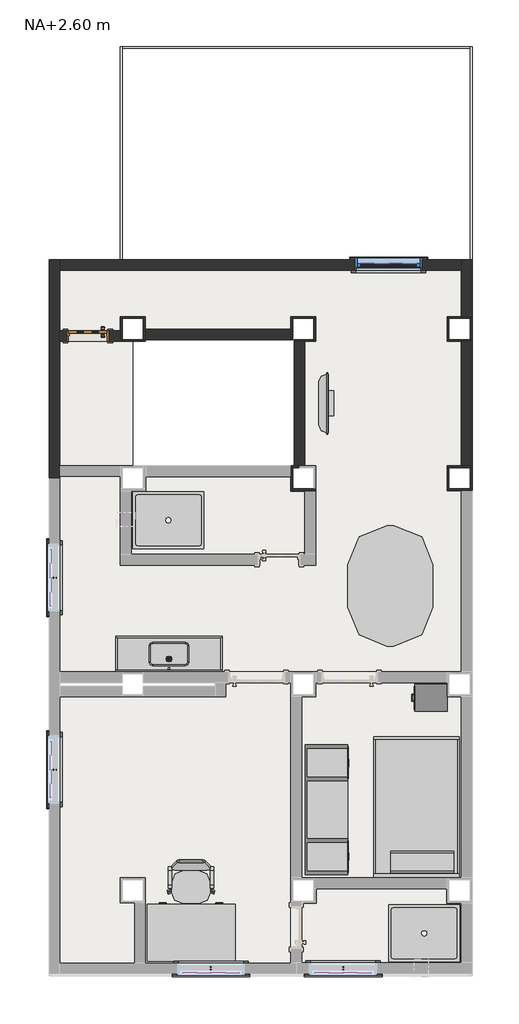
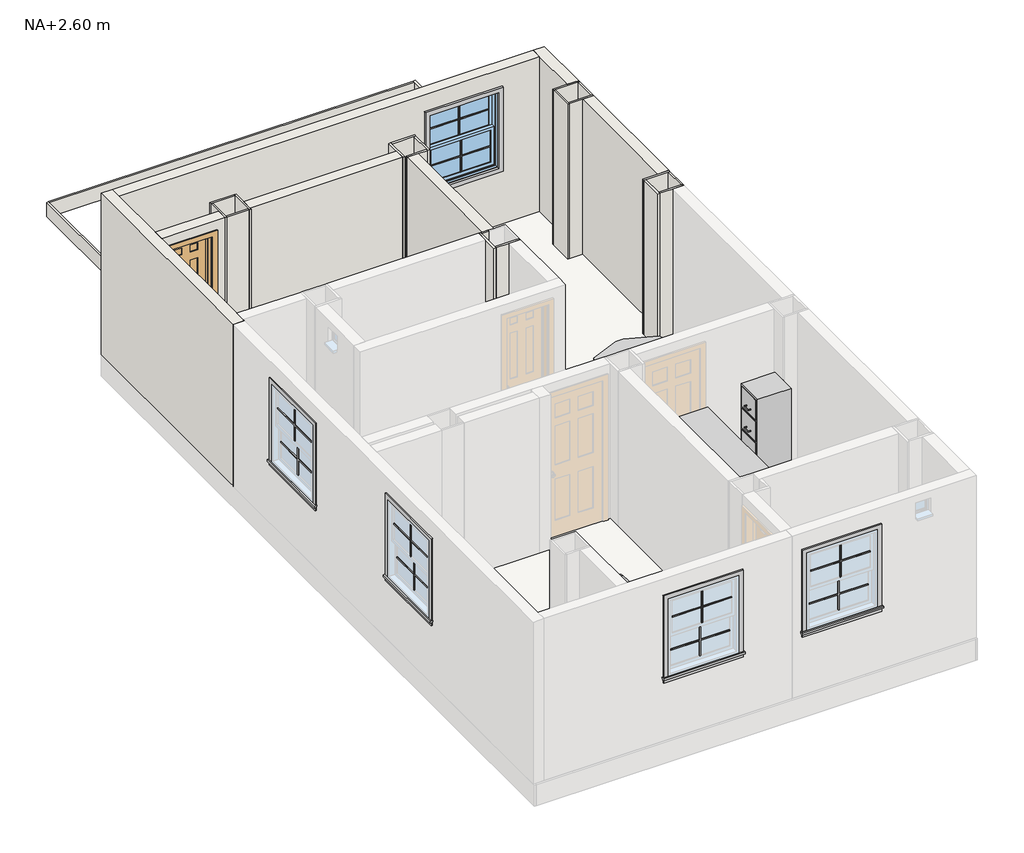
# One storey, part 2 of 2: 30 walls, 20 proxies, 8 furniture elements, 3 flow terminals, 3 slabs, 1 door, 1 window.
"""IFC4 building model written with IfcOpenShell, lengths in millimetres."""

from ifc_helpers import new_model, si_unit, frame, origin, place, context, project, spatial, polyline, outline, extrude, faceted_brep, transform, mapped, element, save
from components import generic_models_dbf21484, generic_models_88e86241, m_moldura_ventana_exterior_plana_con_antepecho_fe713c81, m_puerta_interior_simple_6_paneles_madera_550_x_2000mm_48b77f4a, flow_terminal_f6a3c244, flow_terminal_1000_x_800_mm_dd5a154a, furniture_a6d00652, furniture_18eae17e, furniture_0380_x_0457mm_9d2b133e, furniture_0810mm_51289c3c, furniture_1200_x_1700_mm_cef05c01, furniture_1830_x_1830_x_0610mm_7520c3c2, cama_shaker_1200_x_1981_mm_doble_06cf3c13, m_escritorio_1200_x_762mm_441a5315, m_ventana_dos_hojas_500_x_800mm_5dca547a

model = new_model("IFC4")

# Units and contexts
model_context = context("Model", 3, world=origin())
ifc_project = project(units=[si_unit("LENGTHUNIT", "METRE", prefix="MILLI")], contexts=[model_context])

# Site, building, storey
site = spatial("IfcSite", under=ifc_project)
building = spatial("IfcBuilding", under=site)
storey = spatial("IfcBuildingStorey", under=building, Name="NA+2.60 m", Elevation=2600.0)

# Proxies
placement = place(None, origin())
generic_models_shape = generic_models_dbf21484(model_context)
element("IfcBuildingElementProxy", 1, Name="M_Patrón de montante secundario_2x2 : M_Patrón de montante secundario_2x2", ObjectType="M_Patrón de montante secundario_2x2 : M_Patrón de montante secundario_2x2", at=placement, inside=storey, context=model_context, shape_type="MappedRepresentation", body=[
    mapped(generic_models_shape, transform((-2037.7561082, -5287.1867862, 4086.625), x_axis=(0.0, 1.0, 0.0), y_axis=(-1.0, 0.0, 0.0), z_axis=(0.0, 0.0, 1.0))),
])
element("IfcBuildingElementProxy", 2, Name="M_Patrón de montante secundario_2x2 : M_Patrón de montante secundario_2x2", ObjectType="M_Patrón de montante secundario_2x2 : M_Patrón de montante secundario_2x2", at=placement, inside=storey, context=model_context, shape_type="MappedRepresentation", body=[
    mapped(generic_models_shape, transform((-1993.3061082, -5287.1867862, 3590.6), x_axis=(0.0, 1.0, 0.0), y_axis=(-1.0, 0.0, 0.0), z_axis=(0.0, 0.0, 1.0))),
])
element("IfcBuildingElementProxy", 3, Name="M_Patrón de montante secundario_2x2 : M_Patrón de montante secundario_2x2", ObjectType="M_Patrón de montante secundario_2x2 : M_Patrón de montante secundario_2x2", at=placement, inside=storey, context=model_context, shape_type="MappedRepresentation", body=[
    mapped(generic_models_shape, transform((202.3188918, -8127.2617862, 4086.625), x_axis=(-1.0, 0.0, 0.0), y_axis=(0.0, -1.0, 0.0), z_axis=(0.0, 0.0, 1.0))),
])
element("IfcBuildingElementProxy", 4, Name="M_Patrón de montante secundario_2x2 : M_Patrón de montante secundario_2x2", ObjectType="M_Patrón de montante secundario_2x2 : M_Patrón de montante secundario_2x2", at=placement, inside=storey, context=model_context, shape_type="MappedRepresentation", body=[
    mapped(generic_models_shape, transform((202.3188918, -8082.8117862, 3590.6), x_axis=(-1.0, 0.0, 0.0), y_axis=(0.0, -1.0, 0.0), z_axis=(0.0, 0.0, 1.0))),
])
element("IfcBuildingElementProxy", 5, Name="M_Patrón de montante secundario_2x2 : M_Patrón de montante secundario_2x2", ObjectType="M_Patrón de montante secundario_2x2 : M_Patrón de montante secundario_2x2", at=placement, inside=storey, context=model_context, shape_type="MappedRepresentation", body=[
    mapped(generic_models_shape, transform((2062.3188918, -8127.2617862, 4086.625), x_axis=(-1.0, 0.0, 0.0), y_axis=(0.0, -1.0, 0.0), z_axis=(0.0, 0.0, 1.0))),
])
element("IfcBuildingElementProxy", 6, Name="M_Patrón de montante secundario_2x2 : M_Patrón de montante secundario_2x2", ObjectType="M_Patrón de montante secundario_2x2 : M_Patrón de montante secundario_2x2", at=placement, inside=storey, context=model_context, shape_type="MappedRepresentation", body=[
    mapped(generic_models_shape, transform((2062.3188918, -8082.8117862, 3590.6), x_axis=(-1.0, 0.0, 0.0), y_axis=(0.0, -1.0, 0.0), z_axis=(0.0, 0.0, 1.0))),
])
element("IfcBuildingElementProxy", 7, Name="M_Patrón de montante secundario_2x2 : M_Patrón de montante secundario_2x2", ObjectType="M_Patrón de montante secundario_2x2 : M_Patrón de montante secundario_2x2", at=placement, inside=storey, context=model_context, shape_type="MappedRepresentation", body=[
    mapped(generic_models_shape, transform((-2037.7561082, -2587.1867862, 4086.625), x_axis=(0.0, 1.0, 0.0), y_axis=(-1.0, 0.0, 0.0), z_axis=(0.0, 0.0, 1.0))),
])
element("IfcBuildingElementProxy", 8, Name="M_Patrón de montante secundario_2x2 : M_Patrón de montante secundario_2x2", ObjectType="M_Patrón de montante secundario_2x2 : M_Patrón de montante secundario_2x2", at=placement, inside=storey, context=model_context, shape_type="MappedRepresentation", body=[
    mapped(generic_models_shape, transform((-1993.3061082, -2587.1867862, 3590.6), x_axis=(0.0, 1.0, 0.0), y_axis=(-1.0, 0.0, 0.0), z_axis=(0.0, 0.0, 1.0))),
])
element("IfcBuildingElementProxy", 9, Name="M_Patrón de montante secundario_2x2 : M_Patrón de montante secundario_2x2", ObjectType="M_Patrón de montante secundario_2x2 : M_Patrón de montante secundario_2x2", at=placement, inside=storey, context=model_context, shape_type="MappedRepresentation", body=[
    mapped(generic_models_shape, transform((2702.3188918, 1852.8882138, 4086.625), x_axis=(1.0, 0.0, 0.0), y_axis=(0.0, 1.0, 0.0), z_axis=(0.0, 0.0, 1.0))),
])
element("IfcBuildingElementProxy", 10, Name="M_Patrón de montante secundario_2x2 : M_Patrón de montante secundario_2x2", ObjectType="M_Patrón de montante secundario_2x2 : M_Patrón de montante secundario_2x2", at=placement, inside=storey, context=model_context, shape_type="MappedRepresentation", body=[
    mapped(generic_models_shape, transform((2702.3188918, 1808.4382138, 3590.6), x_axis=(1.0, 0.0, 0.0), y_axis=(0.0, 1.0, 0.0), z_axis=(0.0, 0.0, 1.0))),
])
generic_models_2_shape = generic_models_88e86241(model_context)
element("IfcBuildingElementProxy", 11, Name="M_Cubrejuntas-Ventana-Interior-Plano : Marco de cuadro", ObjectType="M_Cubrejuntas-Ventana-Interior-Plano : Marco de cuadro", at=placement, inside=storey, context=model_context, shape_type="MappedRepresentation", body=[
    mapped(generic_models_2_shape, transform((-1922.6811082, -5287.1867862, 4614.4), x_axis=(0.0, 1.0, 0.0), y_axis=(0.0, 0.0, 1.0), z_axis=(1.0, 0.0, 0.0))),
])
element("IfcBuildingElementProxy", 12, Name="M_Cubrejuntas-Ventana-Interior-Plano : Marco de cuadro", ObjectType="M_Cubrejuntas-Ventana-Interior-Plano : Marco de cuadro", at=placement, inside=storey, context=model_context, shape_type="MappedRepresentation", body=[
    mapped(generic_models_2_shape, transform((202.3188918, -8012.1867862, 4614.4), x_axis=(-1.0, 0.0, 0.0), y_axis=(0.0, 0.0, 1.0), z_axis=(0.0, 1.0, 0.0))),
])
element("IfcBuildingElementProxy", 13, Name="M_Cubrejuntas-Ventana-Interior-Plano : Marco de cuadro", ObjectType="M_Cubrejuntas-Ventana-Interior-Plano : Marco de cuadro", at=placement, inside=storey, context=model_context, shape_type="MappedRepresentation", body=[
    mapped(generic_models_2_shape, transform((2062.3188918, -8007.1867862, 4614.4), x_axis=(-1.0, 0.0, 0.0), y_axis=(0.0, 0.0, 1.0), z_axis=(0.0, 1.0, 0.0))),
])
element("IfcBuildingElementProxy", 14, Name="M_Cubrejuntas-Ventana-Interior-Plano : Marco de cuadro", ObjectType="M_Cubrejuntas-Ventana-Interior-Plano : Marco de cuadro", at=placement, inside=storey, context=model_context, shape_type="MappedRepresentation", body=[
    mapped(generic_models_2_shape, transform((-1922.6811082, -2587.1867862, 4614.4), x_axis=(0.0, 1.0, 0.0), y_axis=(0.0, 0.0, 1.0), z_axis=(1.0, 0.0, 0.0))),
])
element("IfcBuildingElementProxy", 15, Name="M_Cubrejuntas-Ventana-Interior-Plano : Marco de cuadro", ObjectType="M_Cubrejuntas-Ventana-Interior-Plano : Marco de cuadro", at=placement, inside=storey, context=model_context, shape_type="MappedRepresentation", body=[
    mapped(generic_models_2_shape, transform((2702.3188918, 1737.8132138, 4614.4), x_axis=(1.0, 0.0, 0.0), y_axis=(0.0, 0.0, 1.0), z_axis=(0.0, -1.0, 0.0))),
])
m_moldura_ventana_exterior_plana_con_antepecho_shape = m_moldura_ventana_exterior_plana_con_antepecho_fe713c81(model_context)
element("IfcBuildingElementProxy", 16, Name="M_Moldura-Ventana-Exterior-Plana : con antepecho", ObjectType="M_Moldura-Ventana-Exterior-Plana : con antepecho", at=placement, inside=storey, context=model_context, shape_type="MappedRepresentation", body=[
    mapped(m_moldura_ventana_exterior_plana_con_antepecho_shape, transform((-2072.6811082, -5287.1867862, 4614.4), x_axis=(0.0, -1.0, 0.0), y_axis=(0.0, 0.0, 1.0), z_axis=(-1.0, 0.0, 0.0))),
])
element("IfcBuildingElementProxy", 17, Name="M_Moldura-Ventana-Exterior-Plana : con antepecho", ObjectType="M_Moldura-Ventana-Exterior-Plana : con antepecho", at=placement, inside=storey, context=model_context, shape_type="MappedRepresentation", body=[
    mapped(m_moldura_ventana_exterior_plana_con_antepecho_shape, transform((202.3188918, -8162.1867862, 4614.4), x_axis=(1.0, 0.0, 0.0), y_axis=(0.0, 0.0, 1.0), z_axis=(0.0, -1.0, 0.0))),
])
element("IfcBuildingElementProxy", 18, Name="M_Moldura-Ventana-Exterior-Plana : con antepecho", ObjectType="M_Moldura-Ventana-Exterior-Plana : con antepecho", at=placement, inside=storey, context=model_context, shape_type="MappedRepresentation", body=[
    mapped(m_moldura_ventana_exterior_plana_con_antepecho_shape, transform((2062.3188918, -8162.1867862, 4614.4), x_axis=(1.0, 0.0, 0.0), y_axis=(0.0, 0.0, 1.0), z_axis=(0.0, -1.0, 0.0))),
])
element("IfcBuildingElementProxy", 19, Name="M_Moldura-Ventana-Exterior-Plana : con antepecho", ObjectType="M_Moldura-Ventana-Exterior-Plana : con antepecho", at=placement, inside=storey, context=model_context, shape_type="MappedRepresentation", body=[
    mapped(m_moldura_ventana_exterior_plana_con_antepecho_shape, transform((-2072.6811082, -2587.1867862, 4614.4), x_axis=(0.0, -1.0, 0.0), y_axis=(0.0, 0.0, 1.0), z_axis=(-1.0, 0.0, 0.0))),
])
element("IfcBuildingElementProxy", 20, Name="M_Moldura-Ventana-Exterior-Plana : con antepecho", ObjectType="M_Moldura-Ventana-Exterior-Plana : con antepecho", at=placement, inside=storey, context=model_context, shape_type="MappedRepresentation", body=[
    mapped(m_moldura_ventana_exterior_plana_con_antepecho_shape, transform((2702.3188918, 1887.8132138, 4614.4), x_axis=(-1.0, 0.0, 0.0), y_axis=(0.0, 0.0, 1.0), z_axis=(0.0, 1.0, 0.0))),
])

# Door
m_puerta_interior_simple_6_paneles_madera_550_x_2000mm_shape = m_puerta_interior_simple_6_paneles_madera_550_x_2000mm_48b77f4a(model_context)
element("IfcDoor", 21, ObjectType="M_Puerta-Interior-Simple-6_paneles-Madera : 550 x 2000mm", at=placement, inside=storey, context=model_context, shape_type="MappedRepresentation", body=[
    mapped(m_puerta_interior_simple_6_paneles_madera_550_x_2000mm_shape, transform((-1528.9311082, 815.9882138, 2700.0), x_axis=(-1.0, 0.0, 0.0), y_axis=(0.0, -1.0, 0.0), z_axis=(0.0, 0.0, 1.0))),
])

# Flow terminals
flow_terminal_shape = flow_terminal_f6a3c244(model_context)
element("IfcFlowTerminal", 22, ObjectType="Blks_Coz Franke_Cuba de Embutir : Único", at=placement, inside=storey, context=model_context, shape_type="MappedRepresentation", body=[
    mapped(flow_terminal_shape, transform((-387.6811082, -3659.6867862, 3500.0), x_axis=(-1.0, 0.0, 0.0), y_axis=(0.0, -1.0, 0.0), z_axis=(0.0, 0.0, 1.0))),
])
flow_terminal_1000_x_800_mm_shape = flow_terminal_1000_x_800_mm_dd5a154a(model_context)
element("IfcFlowTerminal", 23, ObjectType="Cubeta de ducha - Desagüe centrado : 1000 x 800 mm", at=placement, inside=storey, context=model_context, shape_type="MappedRepresentation", body=[
    mapped(flow_terminal_1000_x_800_mm_shape, transform((3202.3188918, -7592.1867862, 2700.0), x_axis=(1.0, 0.0, 0.0), y_axis=(0.0, 1.0, 0.0), z_axis=(0.0, 0.0, 1.0))),
])
element("IfcFlowTerminal", 24, ObjectType="Cubeta de ducha - Desagüe centrado : 1000 x 800 mm", at=placement, inside=storey, context=model_context, shape_type="MappedRepresentation", body=[
    mapped(flow_terminal_1000_x_800_mm_shape, transform((-395.1811082, -1777.1867862, 2700.0), x_axis=(1.0, 0.0, 0.0), y_axis=(0.0, 1.0, 0.0), z_axis=(0.0, 0.0, 1.0))),
])

# Furniture
furniture_shape = furniture_a6d00652(model_context)
element("IfcFurniture", 25, ObjectType="M_Silla-Ejecutivo : M_Silla-Ejecutivo", at=placement, inside=storey, context=model_context, shape_type="MappedRepresentation", body=[
    mapped(furniture_shape, transform((63.3097115, -6888.2408845, 2700.0), x_axis=(-1.0, 0.0, 0.0), y_axis=(0.0, -1.0, 0.0), z_axis=(0.0, 0.0, 1.0))),
])
furniture_2_shape = furniture_18eae17e(model_context)
element("IfcFurniture", 26, ObjectType="F05943_ES_Encimera-Cocina.2019 : Blanco Siena", at=placement, inside=storey, context=model_context, shape_type="MappedRepresentation", body=[
    mapped(furniture_2_shape, transform((-387.6811082, -3609.6867862, 2700.0), x_axis=(-1.0, 0.0, 0.0), y_axis=(0.0, -1.0, 0.0), z_axis=(0.0, 0.0, 1.0))),
])
furniture_0380_x_0457mm_shape = furniture_0380_x_0457mm_9d2b133e(model_context)
element("IfcFurniture", 27, ObjectType="M_Armario-Archivador 4 cajones : 0380 x 0457mm", at=placement, inside=storey, context=model_context, shape_type="MappedRepresentation", body=[
    mapped(furniture_0380_x_0457mm_shape, transform((3440.9531919, -4405.0832332, 2700.0), x_axis=(0.0, -1.0, 0.0), y_axis=(1.0, 0.0, 0.0), z_axis=(0.0, 0.0, 1.0))),
])
furniture_0810mm_shape = furniture_0810mm_51289c3c(model_context)
element("IfcFurniture", 28, ObjectType="TV - Pantalla plana : 0810mm", at=placement, inside=storey, context=model_context, shape_type="MappedRepresentation", body=[
    mapped(furniture_0810mm_shape, transform((1780.8575155, -130.742272, 3000.0), x_axis=(0.0, 1.0, 0.0), y_axis=(-1.0, 0.0, 0.0), z_axis=(0.0, 0.0, 1.0))),
])
furniture_1200_x_1700_mm_shape = furniture_1200_x_1700_mm_cef05c01(model_context)
element("IfcFurniture", 29, ObjectType="Mesa con Sillas Reuniones : 1200 x 1700 mm", at=placement, inside=storey, context=model_context, shape_type="MappedRepresentation", body=[
    mapped(furniture_1200_x_1700_mm_shape, transform((3112.3188918, -2415.378974, 2700.0), x_axis=(0.0, -1.0, 0.0), y_axis=(1.0, 0.0, 0.0), z_axis=(0.0, 0.0, 1.0))),
])
furniture_1830_x_1830_x_0610mm_shape = furniture_1830_x_1830_x_0610mm_7520c3c2(model_context)
element("IfcFurniture", 30, ObjectType="M_Centro de entretenimiento : 1830 x 1830 x 0610mm", at=placement, inside=storey, context=model_context, shape_type="MappedRepresentation", body=[
    mapped(furniture_1830_x_1830_x_0610mm_shape, transform((1425.9188918, -5852.1867862, 2700.0), x_axis=(0.0, -1.0, 0.0), y_axis=(1.0, 0.0, 0.0), z_axis=(0.0, 0.0, 1.0))),
])
cama_shaker_1200_x_1981_mm_doble_shape = cama_shaker_1200_x_1981_mm_doble_06cf3c13(model_context)
element("IfcFurniture", 31, ObjectType="Cama-Shaker : 1200 x 1981 mm - Doble", at=placement, inside=storey, context=model_context, shape_type="MappedRepresentation", body=[
    mapped(cama_shaker_1200_x_1981_mm_doble_shape, transform((3077.0688918, -6805.8867862, 2700.0), x_axis=(-1.0, 0.0, 0.0), y_axis=(0.0, -1.0, 0.0), z_axis=(0.0, 0.0, 1.0))),
])
m_escritorio_1200_x_762mm_shape = m_escritorio_1200_x_762mm_441a5315(model_context)
element("IfcFurniture", 32, ObjectType="M_Escritorio : 1200 x 762mm", at=placement, inside=storey, context=model_context, shape_type="MappedRepresentation", body=[
    mapped(m_escritorio_1200_x_762mm_shape, transform((684.3188918, -7200.2867862, 2700.0), x_axis=(-1.0, 0.0, 0.0), y_axis=(0.0, -1.0, 0.0), z_axis=(0.0, 0.0, 1.0))),
])

# Slabs
element("IfcSlab", 33, ObjectType="HECM - Suelo de porcelanato Ease Sand 60x60", at=placement, inside=storey, context=model_context, shape_type="Brep", body=[
    faceted_brep([(3727.3188918, 1737.8132138, 2600.0), (3727.3188918, 1087.8132138, 2600.0), (3527.3188918, 1087.8132138, 2600.0), (3527.3188918, 737.8132138, 2600.0), (3727.3188918, 737.8132138, 2600.0), (3727.3188918, -1012.1867862, 2600.0), (3527.3188918, -1012.1867862, 2600.0), (3527.3188918, -1362.1867862, 2600.0), (3727.3188918, -1362.1867862, 2600.0), (3727.3188918, -3912.1867862, 2600.0), (2552.3188918, -3912.1867862, 2600.0), (2552.3188918, -4062.1867862, 2600.0), (3527.3188918, -4062.1867862, 2600.0), (3527.3188918, -4262.1867862, 2600.0), (3727.3188918, -4262.1867862, 2600.0), (3727.3188918, -6812.1867862, 2600.0), (1477.3188918, -6812.1867862, 2600.0), (1477.3188918, -4262.1867862, 2600.0), (1677.3188918, -4262.1867862, 2600.0), (1677.3188918, -4062.1867862, 2600.0), (1752.3188918, -4062.1867862, 2600.0), (1752.3188918, -3912.1867862, 2600.0), (1244.8188918, -3912.1867862, 2600.0), (1244.8188918, -4062.1867862, 2600.0), (1327.3188918, -4062.1867862, 2600.0), (1327.3188918, -7207.1867862, 2600.0), (1482.3188918, -7207.1867862, 2600.0), (1482.3188918, -7807.1867862, 2600.0), (1327.3188918, -7807.1867862, 2600.0), (1327.3188918, -8012.1867862, 2600.0), (-722.6811082, -8012.1867862, 2600.0), (-722.6811082, -6812.1867862, 2600.0), (-1072.6811082, -6812.1867862, 2600.0), (-1072.6811082, -7162.1867862, 2600.0), (-872.6811082, -7162.1867862, 2600.0), (-872.6811082, -8012.1867862, 2600.0), (-1922.6811082, -8012.1867862, 2600.0), (-1922.6811082, -4262.1867862, 2600.0), (412.3188918, -4262.1867862, 2600.0), (412.3188918, -4062.1867862, 2600.0), (444.8188918, -4062.1867862, 2600.0), (444.8188918, -3912.1867862, 2600.0), (-1922.6811082, -3912.1867862, 2600.0), (-1922.6811082, -1162.1867862, 2600.0), (-1072.6811082, -1162.1867862, 2600.0), (-1072.6811082, -2257.1867862, 2600.0), (-1072.6811082, -2412.1867862, 2600.0), (862.3188918, -2412.1867862, 2600.0), (862.3188918, -2257.1867862, 2600.0), (1437.3188918, -2257.1867862, 2600.0), (1437.3188918, -2412.1867862, 2600.0), (1677.3188918, -2412.1867862, 2600.0), (1677.3188918, -2257.1867862, 2600.0), (1677.3188918, -1012.1867862, 2600.0), (1522.3188918, -1012.1867862, 2600.0), (1522.3188918, 737.8132138, 2600.0), (1677.3188918, 737.8132138, 2600.0), (1677.3188918, 1087.8132138, 2600.0), (1327.3188918, 1087.8132138, 2600.0), (1327.3188918, 912.8132138, 2600.0), (-722.6811082, 912.8132138, 2600.0), (-722.6811082, 1087.8132138, 2600.0), (-1062.6811082, 1087.8132138, 2600.0), (-1062.6811082, 887.8132138, 2600.0), (-1228.9311082, 887.8132138, 2600.0), (-1228.9311082, 737.8132138, 2600.0), (-897.6811082, 737.8132138, 2600.0), (-897.6811082, -1014.1867862, 2600.0), (-1922.6811082, -1014.1867862, 2600.0), (-1922.6811082, 737.8132138, 2600.0), (-1828.9311082, 737.8132138, 2600.0), (-1828.9311082, 887.8132138, 2600.0), (-1922.6811082, 887.8132138, 2600.0), (-1922.6811082, 1737.8132138, 2600.0), (3727.3188918, 1737.8132138, 2700.0), (-1922.6811082, 1737.8132138, 2700.0), (-1922.6811082, 887.8132138, 2700.0), (-1828.9311082, 887.8132138, 2700.0), (-1828.9311082, 737.8132138, 2700.0), (-1922.6811082, 737.8132138, 2700.0), (-1922.6811082, -1014.1867862, 2700.0), (-897.6811082, -1014.1867862, 2700.0), (-897.6811082, 737.8132138, 2700.0), (-1228.9311082, 737.8132138, 2700.0), (-1228.9311082, 887.8132138, 2700.0), (-1062.6811082, 887.8132138, 2700.0), (-1062.6811082, 1087.8132138, 2700.0), (-722.6811082, 1087.8132138, 2700.0), (-722.6811082, 912.8132138, 2700.0), (1327.3188918, 912.8132138, 2700.0), (1327.3188918, 1087.8132138, 2700.0), (1677.3188918, 1087.8132138, 2700.0), (1677.3188918, 737.8132138, 2700.0), (1522.3188918, 737.8132138, 2700.0), (1522.3188918, -1012.1867862, 2700.0), (1677.3188918, -1012.1867862, 2700.0), (1677.3188918, -2412.1867862, 2700.0), (1462.3188918, -2412.1867862, 2700.0), (1437.3188918, -2412.1867862, 2700.0), (1437.3188918, -2257.1867862, 2700.0), (862.3188918, -2257.1867862, 2700.0), (862.3188918, -2412.1867862, 2700.0), (-1072.6811082, -2412.1867862, 2700.0), (-1072.6811082, -1162.1867862, 2700.0), (-1922.6811082, -1162.1867862, 2700.0), (-1922.6811082, -3912.1867862, 2700.0), (444.8188918, -3912.1867862, 2700.0), (444.8188918, -4062.1867862, 2700.0), (412.3188918, -4062.1867862, 2700.0), (412.3188918, -4262.1867862, 2700.0), (-1922.6811082, -4262.1867862, 2700.0), (-1922.6811082, -8012.1867862, 2700.0), (-872.6811082, -8012.1867862, 2700.0), (-872.6811082, -7162.1867862, 2700.0), (-1072.6811082, -7162.1867862, 2700.0), (-1072.6811082, -6812.1867862, 2700.0), (-722.6811082, -6812.1867862, 2700.0), (-722.6811082, -8012.1867862, 2700.0), (1327.3188918, -8012.1867862, 2700.0), (1327.3188918, -7807.1867862, 2700.0), (1482.3188918, -7807.1867862, 2700.0), (1482.3188918, -7207.1867862, 2700.0), (1327.3188918, -7207.1867862, 2700.0), (1327.3188918, -4062.1867862, 2700.0), (1244.8188918, -4062.1867862, 2700.0), (1244.8188918, -3912.1867862, 2700.0), (1752.3188918, -3912.1867862, 2700.0), (1752.3188918, -4062.1867862, 2700.0), (1677.3188918, -4062.1867862, 2700.0), (1677.3188918, -4262.1867862, 2700.0), (1477.3188918, -4262.1867862, 2700.0), (1477.3188918, -6812.1867862, 2700.0), (3727.3188918, -6812.1867862, 2700.0), (3727.3188918, -4262.1867862, 2700.0), (3527.3188918, -4262.1867862, 2700.0), (3527.3188918, -4062.1867862, 2700.0), (2552.3188918, -4062.1867862, 2700.0), (2552.3188918, -3912.1867862, 2700.0), (3727.3188918, -3912.1867862, 2700.0), (3727.3188918, -1362.1867862, 2700.0), (3527.3188918, -1362.1867862, 2700.0), (3527.3188918, -1012.1867862, 2700.0), (3727.3188918, -1012.1867862, 2700.0), (3727.3188918, 737.8132138, 2700.0), (3527.3188918, 737.8132138, 2700.0), (3527.3188918, 1087.8132138, 2700.0), (3727.3188918, 1087.8132138, 2700.0)], [[[0, 1, 2, 3, 4, 5, 6, 7, 8, 9, 10, 11, 12, 13, 14, 15, 16, 17, 18, 19, 20, 21, 22, 23, 24, 25, 26, 27, 28, 29, 30, 31, 32, 33, 34, 35, 36, 37, 38, 39, 40, 41, 42, 43, 44, 45, 46, 47, 48, 49, 50, 51, 52, 53, 54, 55, 56, 57, 58, 59, 60, 61, 62, 63, 64, 65, 66, 67, 68, 69, 70, 71, 72, 73]], [[74, 75, 76, 77, 78, 79, 80, 81, 82, 83, 84, 85, 86, 87, 88, 89, 90, 91, 92, 93, 94, 95, 96, 97, 98, 99, 100, 101, 102, 103, 104, 105, 106, 107, 108, 109, 110, 111, 112, 113, 114, 115, 116, 117, 118, 119, 120, 121, 122, 123, 124, 125, 126, 127, 128, 129, 130, 131, 132, 133, 134, 135, 136, 137, 138, 139, 140, 141, 142, 143, 144, 145, 146]], [[1, 0, 74, 146]], [[2, 1, 146, 145]], [[3, 2, 145, 144]], [[4, 3, 144, 143]], [[5, 4, 143, 142]], [[6, 5, 142, 141]], [[7, 6, 141, 140]], [[8, 7, 140, 139]], [[9, 8, 139, 138]], [[10, 9, 138, 137]], [[11, 10, 137, 136]], [[12, 11, 136, 135]], [[13, 12, 135, 134]], [[14, 13, 134, 133]], [[15, 14, 133, 132]], [[16, 15, 132, 131]], [[17, 16, 131, 130]], [[18, 17, 130, 129]], [[19, 18, 129, 128]], [[20, 19, 128, 127]], [[21, 20, 127, 126]], [[22, 21, 126, 125]], [[23, 22, 125, 124]], [[24, 23, 124, 123]], [[25, 24, 123, 122]], [[26, 25, 122, 121]], [[28, 27, 120, 119]], [[29, 28, 119, 118]], [[30, 29, 118, 117]], [[31, 30, 117, 116]], [[32, 31, 116, 115]], [[33, 32, 115, 114]], [[34, 33, 114, 113]], [[35, 34, 113, 112]], [[36, 35, 112, 111]], [[37, 36, 111, 110]], [[38, 37, 110, 109]], [[39, 38, 109, 108]], [[40, 39, 108, 107]], [[41, 40, 107, 106]], [[42, 41, 106, 105]], [[43, 42, 105, 104]], [[44, 43, 104, 103]], [[46, 45, 44, 103, 102]], [[47, 46, 102, 101]], [[48, 47, 101, 100]], [[49, 48, 100, 99]], [[50, 49, 99, 98]], [[51, 50, 98, 97, 96]], [[53, 52, 51, 96, 95]], [[54, 53, 95, 94]], [[55, 54, 94, 93]], [[56, 55, 93, 92]], [[57, 56, 92, 91]], [[58, 57, 91, 90]], [[59, 58, 90, 89]], [[60, 59, 89, 88]], [[61, 60, 88, 87]], [[62, 61, 87, 86]], [[63, 62, 86, 85]], [[64, 63, 85, 84]], [[65, 64, 84, 83]], [[66, 65, 83, 82]], [[67, 66, 82, 81]], [[68, 67, 81, 80]], [[69, 68, 80, 79]], [[70, 69, 79, 78]], [[71, 70, 78, 77]], [[72, 71, 77, 76]], [[73, 72, 76, 75]], [[0, 73, 75, 74]], [[27, 26, 121, 120]]]),
])
element("IfcSlab", 34, ObjectType="HECM - Suelo de ceramica Manchester Grey", at=placement, inside=storey, context=model_context, shape_type="SweptSolid", body=[
    extrude(outline(polyline([(-717.6811082, -1367.1867862), (-717.6811082, -1167.1867862), (1322.3188918, -1167.1867862), (1322.3188918, -1367.1867862), (1522.3188918, -1367.1867862), (1522.3188918, -2257.1867862), (-917.6811082, -2257.1867862), (-917.6811082, -1367.1867862), (-717.6811082, -1367.1867862)])), frame((0.0, 0.0, 2600.0), z_axis=(0.0, 0.0, 1.0), x_axis=(1.0, 0.0, 0.0)), (0.0, 0.0, 1.0), 100.0),
])
element("IfcSlab", 35, ObjectType="HECM - Suelo de ceramica Manchester Grey", at=placement, inside=storey, context=model_context, shape_type="SweptSolid", body=[
    extrude(outline(polyline([(1482.3188918, -8012.1867862), (1482.3188918, -7137.1867862), (1652.3188918, -7137.1867862), (1652.3188918, -6967.1867862), (3552.3188918, -6967.1867862), (3552.3188918, -7137.1867862), (3722.3188918, -7137.1867862), (3722.3188918, -8012.1867862), (1482.3188918, -8012.1867862)])), frame((0.0, 0.0, 2600.0), z_axis=(0.0, 0.0, 1.0), x_axis=(1.0, 0.0, 0.0)), (0.0, 0.0, 1.0), 100.0),
])

# Walls
element("IfcWall", 36, ObjectType="HECM - Muro Fachada - Pintura Blanca", at=placement, inside=storey, context=model_context, shape_type="SweptSolid", body=[
    extrude(outline(polyline([(3877.3188918, 737.8132138), (3877.3188918, -1012.1867862), (3727.3188918, -1012.1867862), (3727.3188918, 737.8132138), (3877.3188918, 737.8132138)])), frame((0.0, 0.0, 2600.0), z_axis=(0.0, 0.0, 1.0), x_axis=(1.0, 0.0, 0.0)), (0.0, 0.0, 1.0), 2300.0),
])
element("IfcWall", 37, ObjectType="HECM - Muro Fachada - Pintura Blanca", at=placement, inside=storey, context=model_context, shape_type="Brep", body=[
    faceted_brep([(3877.3188918, 1087.8132138, 2600.0), (3877.3188918, 1887.8132138, 2600.0), (3877.3188918, 1887.8132138, 4900.0), (3877.3188918, 1087.8132138, 4900.0), (3727.3188918, 1087.8132138, 2600.0), (3727.3188918, 1087.8132138, 4900.0), (3727.3188918, 1737.8132138, 4900.0), (3727.3188918, 1887.8132138, 4900.0), (3727.3188918, 1887.8132138, 2600.0), (3727.3188918, 1737.8132138, 2600.0)], [[[0, 1, 2, 3]], [[4, 5, 6, 7, 8, 9]], [[1, 0, 4, 9, 8]], [[3, 2, 7, 6, 5]], [[2, 1, 8, 7]], [[0, 3, 5, 4]]]),
])
element("IfcWall", 38, ObjectType="HECM - Muro Fachada - Pintura Blanca", at=placement, inside=storey, context=model_context, shape_type="SweptSolid", body=[
    extrude(outline(polyline([(2600.0, 3727.3188918), (4900.0, 3727.3188918), (4900.0, -1922.6811082), (2600.0, -1922.6811082), (2600.0, 3727.3188918)]), holes=[polyline([(4614.4, 2227.3188918), (4614.4, 3177.3188918), (3514.4, 3177.3188918), (3514.4, 2227.3188918), (4614.4, 2227.3188918)])]), frame((0.0, 1737.8132138, 0.0), z_axis=(0.0, 1.0, 0.0), x_axis=(0.0, 0.0, 1.0)), (0.0, 0.0, 1.0), 150.0),
])
element("IfcWall", 39, ObjectType="HECM - Muro Pintura Blanca 2 caras", at=placement, inside=storey, context=model_context, shape_type="Brep", body=[
    faceted_brep([(1522.3188918, -1012.1867862, 2600.0), (1522.3188918, 737.8132138, 2600.0), (1522.3188918, 737.8132138, 4900.0), (1522.3188918, -1012.1867862, 4900.0), (1372.3188918, -1012.1867862, 2600.0), (1372.3188918, -1012.1867862, 4900.0), (1372.3188918, 737.8132138, 4900.0), (1372.3188918, 737.8132138, 2600.0), (1447.3188918, -1012.1867862, 2600.0), (1447.3188918, -1012.1867862, 4900.0)], [[[0, 1, 2, 3]], [[4, 5, 6, 7]], [[1, 0, 8, 4, 7]], [[3, 2, 6, 5, 9]], [[0, 3, 9, 5, 4, 8]], [[2, 1, 7, 6]]]),
])
element("IfcWall", 40, ObjectType="HECM - Muro Pintura Blanca 2 caras", at=placement, inside=storey, context=model_context, shape_type="SweptSolid", body=[
    extrude(outline(polyline([(1327.3188918, 762.8132138), (-722.6811082, 762.8132138), (-722.6811082, 912.8132138), (1327.3188918, 912.8132138), (1327.3188918, 762.8132138)])), frame((0.0, 0.0, 2600.0), z_axis=(0.0, 0.0, 1.0), x_axis=(1.0, 0.0, 0.0)), (0.0, 0.0, 1.0), 2300.0),
])
element("IfcWall", 41, ObjectType="HECM - Muro Pintura Blanca 2 caras", at=placement, inside=storey, context=model_context, shape_type="SweptSolid", body=[
    extrude(outline(polyline([(2600.0, -1922.6811082), (2600.0, -1072.6811082), (4900.0, -1072.6811082), (4900.0, -1922.6811082), (2600.0, -1922.6811082)]), holes=[polyline([(2700.0, -1828.9311082), (4725.0, -1828.9311082), (4725.0, -1228.9311082), (2700.0, -1228.9311082), (2700.0, -1828.9311082)])]), frame((0.0, 737.8132138, 0.0), z_axis=(0.0, 1.0, 0.0), x_axis=(0.0, 0.0, 1.0)), (0.0, 0.0, 1.0), 150.0),
])
element("IfcWall", 42, ObjectType="HECM - Acabado de pintura blanca", at=placement, inside=storey, context=model_context, shape_type="Brep", body=[
    faceted_brep([(1352.3188918, -1037.1867862, 2600.0), (1447.3188918, -1037.1867862, 2600.0), (1447.3188918, -1037.1867862, 4900.0), (1352.3188918, -1037.1867862, 4900.0), (1352.3188918, -1012.1867862, 2600.0), (1352.3188918, -1012.1867862, 4900.0), (1372.3188918, -1012.1867862, 4900.0), (1447.3188918, -1012.1867862, 4900.0), (1447.3188918, -1012.1867862, 2600.0), (1372.3188918, -1012.1867862, 2600.0)], [[[0, 1, 2, 3]], [[4, 5, 6, 7, 8, 9]], [[1, 0, 4, 9, 8]], [[2, 1, 8, 7]], [[3, 2, 7, 6, 5]], [[0, 3, 5, 4]]]),
])
element("IfcWall", 43, ObjectType="HECM - Acabado de pintura blanca", at=placement, inside=storey, context=model_context, shape_type="Brep", body=[
    faceted_brep([(3877.3188918, -1012.1867862, 2600.0), (3727.3188918, -1012.1867862, 2600.0), (3527.3188918, -1012.1867862, 2600.0), (3527.3188918, -1012.1867862, 4900.0), (3727.3188918, -1012.1867862, 4900.0), (3877.3188918, -1012.1867862, 4900.0), (3877.3188918, -1037.1867862, 2600.0), (3877.3188918, -1037.1867862, 4900.0), (3852.3188918, -1037.1867862, 4900.0), (3552.3188918, -1037.1867862, 4900.0), (3527.3188918, -1037.1867862, 4900.0), (3527.3188918, -1037.1867862, 2600.0), (3552.3188918, -1037.1867862, 2600.0), (3852.3188918, -1037.1867862, 2600.0)], [[[0, 1, 2, 3, 4, 5]], [[6, 7, 8, 9, 10, 11, 12, 13]], [[2, 1, 0, 6, 13, 12, 11]], [[5, 4, 3, 10, 9, 8, 7]], [[0, 5, 7, 6]], [[3, 2, 11, 10]]]),
])
element("IfcWall", 44, ObjectType="HECM - Acabado de pintura blanca", at=placement, inside=storey, context=model_context, shape_type="Brep", body=[
    faceted_brep([(3527.3188918, -1037.1867862, 2600.0), (3527.3188918, -1362.1867862, 2600.0), (3527.3188918, -1362.1867862, 4900.0), (3527.3188918, -1037.1867862, 4900.0), (3552.3188918, -1037.1867862, 2600.0), (3552.3188918, -1037.1867862, 4900.0), (3552.3188918, -1337.1867862, 4900.0), (3552.3188918, -1362.1867862, 4900.0), (3552.3188918, -1362.1867862, 2600.0), (3552.3188918, -1337.1867862, 2600.0)], [[[0, 1, 2, 3]], [[4, 5, 6, 7, 8, 9]], [[1, 0, 4, 9, 8]], [[3, 2, 7, 6, 5]], [[0, 3, 5, 4]], [[2, 1, 8, 7]]]),
])
element("IfcWall", 45, ObjectType="HECM - Acabado de pintura blanca", at=placement, inside=storey, context=model_context, shape_type="Brep", body=[
    faceted_brep([(3552.3188918, -1362.1867862, 2600.0), (3727.3188918, -1362.1867862, 2600.0), (3877.3188918, -1362.1867862, 2600.0), (3877.3188918, -1362.1867862, 4900.0), (3727.3188918, -1362.1867862, 4900.0), (3552.3188918, -1362.1867862, 4900.0), (3552.3188918, -1337.1867862, 2600.0), (3552.3188918, -1337.1867862, 4900.0), (3852.3188918, -1337.1867862, 4900.0), (3877.3188918, -1337.1867862, 4900.0), (3877.3188918, -1337.1867862, 2600.0), (3852.3188918, -1337.1867862, 2600.0)], [[[0, 1, 2, 3, 4, 5]], [[6, 7, 8, 9, 10, 11]], [[2, 1, 0, 6, 11, 10]], [[5, 4, 3, 9, 8, 7]], [[3, 2, 10, 9]], [[0, 5, 7, 6]]]),
])
element("IfcWall", 46, ObjectType="HECM - Acabado de pintura blanca", at=placement, inside=storey, context=model_context, shape_type="Brep", body=[
    faceted_brep([(3877.3188918, 1087.8132138, 2600.0), (3727.3188918, 1087.8132138, 2600.0), (3527.3188918, 1087.8132138, 2600.0), (3527.3188918, 1087.8132138, 4900.0), (3727.3188918, 1087.8132138, 4900.0), (3877.3188918, 1087.8132138, 4900.0), (3877.3188918, 1062.8132138, 2600.0), (3877.3188918, 1062.8132138, 4900.0), (3852.3188918, 1062.8132138, 4900.0), (3552.3188918, 1062.8132138, 4900.0), (3527.3188918, 1062.8132138, 4900.0), (3527.3188918, 1062.8132138, 2600.0), (3552.3188918, 1062.8132138, 2600.0), (3852.3188918, 1062.8132138, 2600.0)], [[[0, 1, 2, 3, 4, 5]], [[6, 7, 8, 9, 10, 11, 12, 13]], [[2, 1, 0, 6, 13, 12, 11]], [[5, 4, 3, 10, 9, 8, 7]], [[0, 5, 7, 6]], [[3, 2, 11, 10]]]),
])
element("IfcWall", 47, ObjectType="HECM - Acabado de pintura blanca", at=placement, inside=storey, context=model_context, shape_type="Brep", body=[
    faceted_brep([(3527.3188918, 1062.8132138, 2600.0), (3527.3188918, 737.8132138, 2600.0), (3527.3188918, 737.8132138, 4900.0), (3527.3188918, 1062.8132138, 4900.0), (3552.3188918, 1062.8132138, 2600.0), (3552.3188918, 1062.8132138, 4900.0), (3552.3188918, 762.8132138, 4900.0), (3552.3188918, 737.8132138, 4900.0), (3552.3188918, 737.8132138, 2600.0), (3552.3188918, 762.8132138, 2600.0)], [[[0, 1, 2, 3]], [[4, 5, 6, 7, 8, 9]], [[1, 0, 4, 9, 8]], [[3, 2, 7, 6, 5]], [[0, 3, 5, 4]], [[2, 1, 8, 7]]]),
])
element("IfcWall", 48, ObjectType="HECM - Acabado de pintura blanca", at=placement, inside=storey, context=model_context, shape_type="Brep", body=[
    faceted_brep([(3552.3188918, 737.8132138, 2600.0), (3727.3188918, 737.8132138, 2600.0), (3877.3188918, 737.8132138, 2600.0), (3877.3188918, 737.8132138, 4900.0), (3727.3188918, 737.8132138, 4900.0), (3552.3188918, 737.8132138, 4900.0), (3552.3188918, 762.8132138, 2600.0), (3552.3188918, 762.8132138, 4900.0), (3852.3188918, 762.8132138, 4900.0), (3877.3188918, 762.8132138, 4900.0), (3877.3188918, 762.8132138, 2600.0), (3852.3188918, 762.8132138, 2600.0)], [[[0, 1, 2, 3, 4, 5]], [[6, 7, 8, 9, 10, 11]], [[2, 1, 0, 6, 11, 10]], [[5, 4, 3, 9, 8, 7]], [[3, 2, 10, 9]], [[0, 5, 7, 6]]]),
])
element("IfcWall", 49, ObjectType="HECM - Acabado de pintura blanca", at=placement, inside=storey, context=model_context, shape_type="Brep", body=[
    faceted_brep([(1352.3188918, 762.8132138, 2600.0), (1352.3188918, 1062.8132138, 2600.0), (1352.3188918, 1087.8132138, 2600.0), (1352.3188918, 1087.8132138, 4900.0), (1352.3188918, 1062.8132138, 4900.0), (1352.3188918, 762.8132138, 4900.0), (1327.3188918, 762.8132138, 2600.0), (1327.3188918, 762.8132138, 4900.0), (1327.3188918, 912.8132138, 4900.0), (1327.3188918, 1087.8132138, 4900.0), (1327.3188918, 1087.8132138, 2600.0), (1327.3188918, 912.8132138, 2600.0)], [[[0, 1, 2, 3, 4, 5]], [[6, 7, 8, 9, 10, 11]], [[2, 1, 0, 6, 11, 10]], [[5, 4, 3, 9, 8, 7]], [[0, 5, 7, 6]], [[3, 2, 10, 9]]]),
])
element("IfcWall", 50, ObjectType="HECM - Acabado de pintura blanca", at=placement, inside=storey, context=model_context, shape_type="Brep", body=[
    faceted_brep([(1352.3188918, 1062.8132138, 2600.0), (1652.3188918, 1062.8132138, 2600.0), (1677.3188918, 1062.8132138, 2600.0), (1677.3188918, 1062.8132138, 4900.0), (1652.3188918, 1062.8132138, 4900.0), (1352.3188918, 1062.8132138, 4900.0), (1352.3188918, 1087.8132138, 2600.0), (1352.3188918, 1087.8132138, 4900.0), (1677.3188918, 1087.8132138, 4900.0), (1677.3188918, 1087.8132138, 2600.0)], [[[0, 1, 2, 3, 4, 5]], [[6, 7, 8, 9]], [[2, 1, 0, 6, 9]], [[5, 4, 3, 8, 7]], [[0, 5, 7, 6]], [[3, 2, 9, 8]]]),
])
element("IfcWall", 51, ObjectType="HECM - Acabado de pintura blanca", at=placement, inside=storey, context=model_context, shape_type="Brep", body=[
    faceted_brep([(1652.3188918, 1062.8132138, 2600.0), (1652.3188918, 762.8132138, 2600.0), (1652.3188918, 737.8132138, 2600.0), (1652.3188918, 737.8132138, 4900.0), (1652.3188918, 762.8132138, 4900.0), (1652.3188918, 1062.8132138, 4900.0), (1677.3188918, 1062.8132138, 2600.0), (1677.3188918, 1062.8132138, 4900.0), (1677.3188918, 737.8132138, 4900.0), (1677.3188918, 737.8132138, 2600.0)], [[[0, 1, 2, 3, 4, 5]], [[6, 7, 8, 9]], [[2, 1, 0, 6, 9]], [[5, 4, 3, 8, 7]], [[0, 5, 7, 6]], [[3, 2, 9, 8]]]),
])
element("IfcWall", 52, ObjectType="HECM - Acabado de pintura blanca", at=placement, inside=storey, context=model_context, shape_type="Brep", body=[
    faceted_brep([(1652.3188918, 762.8132138, 2600.0), (1372.3188918, 762.8132138, 2600.0), (1372.3188918, 762.8132138, 4900.0), (1652.3188918, 762.8132138, 4900.0), (1652.3188918, 737.8132138, 2600.0), (1652.3188918, 737.8132138, 4900.0), (1522.3188918, 737.8132138, 4900.0), (1372.3188918, 737.8132138, 4900.0), (1372.3188918, 737.8132138, 2600.0), (1522.3188918, 737.8132138, 2600.0)], [[[0, 1, 2, 3]], [[4, 5, 6, 7, 8, 9]], [[1, 0, 4, 9, 8]], [[3, 2, 7, 6, 5]], [[2, 1, 8, 7]], [[0, 3, 5, 4]]]),
])
element("IfcWall", 53, ObjectType="HECM - Acabado de pintura blanca", at=placement, inside=storey, context=model_context, shape_type="Brep", body=[
    faceted_brep([(-722.6811082, 737.8132138, 2600.0), (-722.6811082, 762.8132138, 2600.0), (-722.6811082, 912.8132138, 2600.0), (-722.6811082, 1087.8132138, 2600.0), (-722.6811082, 1087.8132138, 4900.0), (-722.6811082, 912.8132138, 4900.0), (-722.6811082, 762.8132138, 4900.0), (-722.6811082, 737.8132138, 4900.0), (-747.6811082, 737.8132138, 2600.0), (-747.6811082, 737.8132138, 4900.0), (-747.6811082, 762.8132138, 4900.0), (-747.6811082, 1062.8132138, 4900.0), (-747.6811082, 1087.8132138, 4900.0), (-747.6811082, 1087.8132138, 2600.0), (-747.6811082, 1062.8132138, 2600.0), (-747.6811082, 762.8132138, 2600.0)], [[[0, 1, 2, 3, 4, 5, 6, 7]], [[8, 9, 10, 11, 12, 13, 14, 15]], [[3, 2, 1, 0, 8, 15, 14, 13]], [[7, 6, 5, 4, 12, 11, 10, 9]], [[4, 3, 13, 12]], [[0, 7, 9, 8]]]),
])
element("IfcWall", 54, ObjectType="HECM - Acabado de pintura blanca", at=placement, inside=storey, context=model_context, shape_type="Brep", body=[
    faceted_brep([(-747.6811082, 1087.8132138, 2600.0), (-1072.6811082, 1087.8132138, 2600.0), (-1072.6811082, 1087.8132138, 4900.0), (-747.6811082, 1087.8132138, 4900.0), (-747.6811082, 1062.8132138, 2600.0), (-747.6811082, 1062.8132138, 4900.0), (-1047.6811082, 1062.8132138, 4900.0), (-1072.6811082, 1062.8132138, 4900.0), (-1072.6811082, 1062.8132138, 2600.0), (-1047.6811082, 1062.8132138, 2600.0)], [[[0, 1, 2, 3]], [[4, 5, 6, 7, 8, 9]], [[1, 0, 4, 9, 8]], [[3, 2, 7, 6, 5]], [[0, 3, 5, 4]], [[2, 1, 8, 7]]]),
])
element("IfcWall", 55, ObjectType="HECM - Acabado de pintura blanca", at=placement, inside=storey, context=model_context, shape_type="Brep", body=[
    faceted_brep([(-1072.6811082, 1062.8132138, 2600.0), (-1072.6811082, 887.8132138, 2600.0), (-1072.6811082, 737.8132138, 2600.0), (-1072.6811082, 737.8132138, 4900.0), (-1072.6811082, 887.8132138, 4900.0), (-1072.6811082, 1062.8132138, 4900.0), (-1047.6811082, 1062.8132138, 2600.0), (-1047.6811082, 1062.8132138, 4900.0), (-1047.6811082, 762.8132138, 4900.0), (-1047.6811082, 737.8132138, 4900.0), (-1047.6811082, 737.8132138, 2600.0), (-1047.6811082, 762.8132138, 2600.0)], [[[0, 1, 2, 3, 4, 5]], [[6, 7, 8, 9, 10, 11]], [[2, 1, 0, 6, 11, 10]], [[5, 4, 3, 9, 8, 7]], [[3, 2, 10, 9]], [[0, 5, 7, 6]]]),
])
element("IfcWall", 56, ObjectType="HECM - Acabado de pintura blanca", at=placement, inside=storey, context=model_context, shape_type="SweptSolid", body=[
    extrude(outline(polyline([(-747.6811082, 737.8132138), (-1047.6811082, 737.8132138), (-1047.6811082, 762.8132138), (-747.6811082, 762.8132138), (-747.6811082, 737.8132138)])), frame((0.0, 0.0, 2600.0), z_axis=(0.0, 0.0, 1.0), x_axis=(1.0, 0.0, 0.0)), (0.0, 0.0, 1.0), 2300.0),
])
element("IfcWall", 57, ObjectType="HECM - Muro Fachada - Pintura Blanca", at=placement, inside=storey, context=model_context, shape_type="Brep", body=[
    faceted_brep([(-1922.6811082, -1187.1867862, 2600.0), (-1922.6811082, -1162.1867862, 2600.0), (-1922.6811082, -1012.1867862, 2600.0), (-1922.6811082, 737.8132138, 2600.0), (-1922.6811082, 887.8132138, 2600.0), (-1922.6811082, 1737.8132138, 2600.0), (-1922.6811082, 1887.8132138, 2600.0), (-1922.6811082, 1887.8132138, 4900.0), (-1922.6811082, 1737.8132138, 4900.0), (-1922.6811082, 887.8132138, 4900.0), (-1922.6811082, 737.8132138, 4900.0), (-1922.6811082, -1012.1867862, 4900.0), (-1922.6811082, -1162.1867862, 4900.0), (-1922.6811082, -1187.1867862, 4900.0), (-2072.6811082, -1187.1867862, 2600.0), (-2072.6811082, -1187.1867862, 4900.0), (-2072.6811082, 1887.8132138, 4900.0), (-2072.6811082, 1887.8132138, 2600.0)], [[[0, 1, 2, 3, 4, 5, 6, 7, 8, 9, 10, 11, 12, 13]], [[14, 15, 16, 17]], [[6, 5, 4, 3, 2, 1, 0, 14, 17]], [[13, 12, 11, 10, 9, 8, 7, 16, 15]], [[0, 13, 15, 14]], [[7, 6, 17, 16]]]),
])
element("IfcWall", 58, ObjectType="HECM - Acabado de pintura blanca", at=placement, inside=storey, context=model_context, shape_type="SweptSolid", body=[
    extrude(outline(polyline([(3877.3188918, 1062.8132138), (3877.3188918, 762.8132138), (3852.3188918, 762.8132138), (3852.3188918, 1062.8132138), (3877.3188918, 1062.8132138)])), frame((0.0, 0.0, 2600.0), z_axis=(0.0, 0.0, 1.0), x_axis=(1.0, 0.0, 0.0)), (0.0, 0.0, 1.0), 2300.0),
])
element("IfcWall", 59, ObjectType="HECM - Acabado de pintura blanca", at=placement, inside=storey, context=model_context, shape_type="SweptSolid", body=[
    extrude(outline(polyline([(3877.3188918, -1037.1867862), (3877.3188918, -1337.1867862), (3852.3188918, -1337.1867862), (3852.3188918, -1037.1867862), (3877.3188918, -1037.1867862)])), frame((0.0, 0.0, 2600.0), z_axis=(0.0, 0.0, 1.0), x_axis=(1.0, 0.0, 0.0)), (0.0, 0.0, 1.0), 2300.0),
])
element("IfcWall", 60, ObjectType="HECM - Enchape baño", at=placement, inside=storey, context=model_context, shape_type="Brep", body=[
    faceted_brep([(1322.3188918, -1012.1867862, 2600.0), (1322.3188918, -1167.1867862, 2600.0), (1322.3188918, -1367.1867862, 2600.0), (1322.3188918, -1367.1867862, 4900.0), (1322.3188918, -1167.1867862, 4900.0), (1322.3188918, -1012.1867862, 4900.0), (1352.3188918, -1012.1867862, 2600.0), (1352.3188918, -1012.1867862, 4900.0), (1352.3188918, -1037.1867862, 4900.0), (1352.3188918, -1337.1867862, 4900.0), (1352.3188918, -1367.1867862, 4900.0), (1352.3188918, -1367.1867862, 2600.0), (1352.3188918, -1337.1867862, 2600.0), (1352.3188918, -1037.1867862, 2600.0)], [[[0, 1, 2, 3, 4, 5]], [[6, 7, 8, 9, 10, 11, 12, 13]], [[2, 1, 0, 6, 13, 12, 11]], [[5, 4, 3, 10, 9, 8, 7]], [[3, 2, 11, 10]], [[0, 5, 7, 6]]]),
])
element("IfcWall", 61, ObjectType="HECM - Enchape baño", at=placement, inside=storey, context=model_context, shape_type="Brep", body=[
    faceted_brep([(1352.3188918, -1367.1867862, 2600.0), (1522.3188918, -1367.1867862, 2600.0), (1677.3188918, -1367.1867862, 2600.0), (1677.3188918, -1367.1867862, 4900.0), (1522.3188918, -1367.1867862, 4900.0), (1352.3188918, -1367.1867862, 4900.0), (1352.3188918, -1337.1867862, 2600.0), (1352.3188918, -1337.1867862, 4900.0), (1652.3188918, -1337.1867862, 4900.0), (1677.3188918, -1337.1867862, 4900.0), (1677.3188918, -1337.1867862, 2600.0), (1652.3188918, -1337.1867862, 2600.0)], [[[0, 1, 2, 3, 4, 5]], [[6, 7, 8, 9, 10, 11]], [[2, 1, 0, 6, 11, 10]], [[5, 4, 3, 9, 8, 7]], [[3, 2, 10, 9]], [[0, 5, 7, 6]]]),
])
element("IfcWall", 62, ObjectType="HECM - Acabado de pintura blanca", at=placement, inside=storey, context=model_context, shape_type="Brep", body=[
    faceted_brep([(-2047.6811082, 1862.8132138, 2300.0), (3722.3188918, 1862.8132138, 2300.0), (3722.3188918, 1862.8132138, 2400.0), (3722.3188918, 1862.8132138, 2600.0), (-2047.6811082, 1862.8132138, 2600.0), (-2047.6811082, 1887.8132138, 2300.0), (-2047.6811082, 1887.8132138, 2600.0), (3722.3188918, 1887.8132138, 2600.0), (3722.3188918, 1887.8132138, 2300.0), (-917.6811082, 1887.8132138, 2300.0), (-1072.6811082, 1887.8132138, 2300.0)], [[[0, 1, 2, 3, 4]], [[5, 6, 7, 8, 9, 10]], [[1, 0, 5, 10, 9, 8]], [[4, 3, 7, 6]], [[3, 2, 1, 8, 7]], [[0, 4, 6, 5]]]),
])
element("IfcWall", 63, ObjectType="HECM - Acabado de pintura blanca", at=placement, inside=storey, context=model_context, shape_type="Brep", body=[
    faceted_brep([(-1047.6811082, 1812.8132138, 2400.0), (-1047.6811082, 4862.8132138, 2400.0), (-1047.6811082, 4887.8132138, 2400.0), (-1047.6811082, 4887.8132138, 2600.0), (-1047.6811082, 4862.8132138, 2600.0), (-1047.6811082, 1812.8132138, 2600.0), (-1072.6811082, 1812.8132138, 2400.0), (-1072.6811082, 1812.8132138, 2600.0), (-1072.6811082, 4887.8132138, 2600.0), (-1072.6811082, 4887.8132138, 2400.0)], [[[0, 1, 2, 3, 4, 5]], [[6, 7, 8, 9]], [[2, 1, 0, 6, 9]], [[5, 4, 3, 8, 7]], [[0, 5, 7, 6]], [[3, 2, 9, 8]]]),
])
element("IfcWall", 64, ObjectType="HECM - Acabado de pintura blanca", at=placement, inside=storey, context=model_context, shape_type="Brep", body=[
    faceted_brep([(3877.3188918, 1862.8132138, 2400.0), (3877.3188918, 4887.8132138, 2400.0), (3877.3188918, 4887.8132138, 2600.0), (3877.3188918, 1862.8132138, 2600.0), (3852.3188918, 1862.8132138, 2400.0), (3852.3188918, 1862.8132138, 2600.0), (3852.3188918, 4862.8132138, 2600.0), (3852.3188918, 4887.8132138, 2600.0), (3852.3188918, 4887.8132138, 2400.0), (3852.3188918, 4862.8132138, 2400.0)], [[[0, 1, 2, 3]], [[4, 5, 6, 7, 8, 9]], [[1, 0, 4, 9, 8]], [[3, 2, 7, 6, 5]], [[0, 3, 5, 4]], [[2, 1, 8, 7]]]),
])
element("IfcWall", 65, ObjectType="HECM - Acabado de pintura blanca", at=placement, inside=storey, context=model_context, shape_type="SweptSolid", body=[
    extrude(outline(polyline([(3852.3188918, 4862.8132138), (-1047.6811082, 4862.8132138), (-1047.6811082, 4887.8132138), (3852.3188918, 4887.8132138), (3852.3188918, 4862.8132138)])), frame((0.0, 0.0, 2400.0), z_axis=(0.0, 0.0, 1.0), x_axis=(1.0, 0.0, 0.0)), (0.0, 0.0, 1.0), 200.0),
])

# Window
m_ventana_dos_hojas_500_x_800mm_shape = m_ventana_dos_hojas_500_x_800mm_5dca547a(model_context)
element("IfcWindow", 66, ObjectType="M_Ventana-Dos hojas : 650 x 1100mm", at=placement, inside=storey, context=model_context, shape_type="MappedRepresentation", body=[
    mapped(m_ventana_dos_hojas_500_x_800mm_shape, transform((2702.3188918, 1812.8132138, 2600.0), x_axis=(1.0, 0.0, 0.0), y_axis=(0.0, 1.0, 0.0), z_axis=(0.0, 0.0, 1.0))),
])

save(model, "model.ifc")
